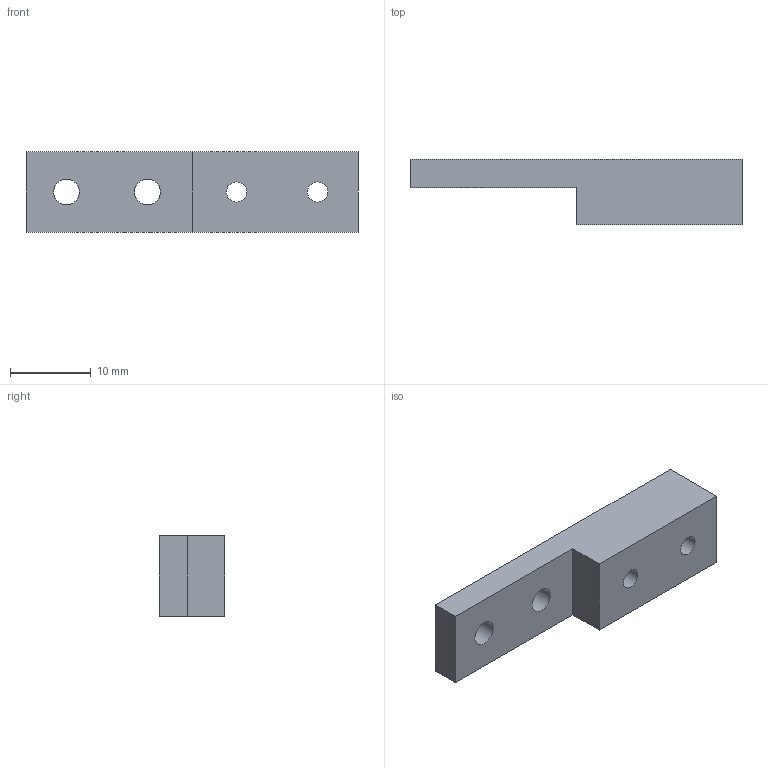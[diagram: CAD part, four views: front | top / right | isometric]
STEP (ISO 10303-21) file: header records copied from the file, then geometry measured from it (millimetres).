
FILE_DESCRIPTION(/* description */ (''),/* implementation_level */ '2;1');
FILE_NAME(/* name */ '014_GND_BRACKET.stp',/* time_stamp */ '2019-09-04T15:17:46+02:00',/* author */ (''),/* organization */ (''),/* preprocessor_version */ 'ST-DEVELOPER v16.7',/* originating_system */ 'SIEMENS PLM Software NX 12.0',/* authorisation */ '');
FILE_SCHEMA (('AUTOMOTIVE_DESIGN { 1 0 10303 214 3 1 1 1 }'));
Length unit declared in the file: millimetre
Products named in the file (1): bez368824041fok
Bounding box: 41 x 8.1 x 10 mm (x, y, z)
Volume: 2242.2 mm3; surface area: 1603.4 mm2
Topology: 1 solids, 1 shells, 12 faces, 32 edges, 22 vertices
Faces by surface type: plane 8, cylinder 4
Full cylindrical faces by diameter (mm): 2.5 x2, 3.2 x2
Entity records: 390 total; most frequent: DIRECTION 60, CARTESIAN_POINT 59, ORIENTED_EDGE 52, EDGE_CURVE 26, EDGE_LOOP 24, AXIS2_PLACEMENT_3D 21, VERTEX_POINT 20, FACE_BOUND 19
